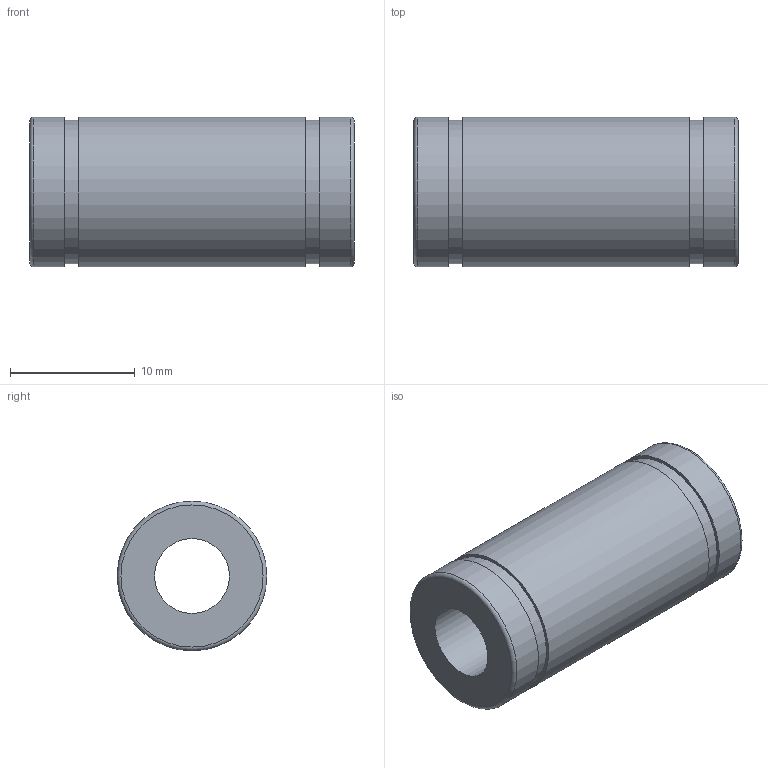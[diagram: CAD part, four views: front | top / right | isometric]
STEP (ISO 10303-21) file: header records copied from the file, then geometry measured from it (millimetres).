
FILE_DESCRIPTION(('STEP AP203'),'1');
FILE_NAME('//192.168.1.1/share/s-4 技術開発/s-4-13_CAD/03_見直し済み/001 修正済み/N-VM/N-VM_STEP/N-6VM.step','2020-04-08T00:07:53',(' '),(' '),'Spatial InterOp 3D',' ',' ');
FILE_SCHEMA(('CONFIG_CONTROL_DESIGN'));
Length unit declared in the file: millimetre
Products named in the file (1): 1
Bounding box: 26 x 12 x 12 mm (x, y, z)
Volume: 2182.7 mm3; surface area: 1663.4 mm2
Topology: 1 solids, 1 shells, 14 faces, 22 edges, 14 vertices
Faces by surface type: plane 6, cylinder 6, torus 2
Full cylindrical faces by diameter (mm): 6 x1, 11.5 x2, 12 x3
Entity records: 332 total; most frequent: DIRECTION 58, CARTESIAN_POINT 43, AXIS2_PLACEMENT_3D 29, EDGE_LOOP 28, ORIENTED_EDGE 28, FACE_OUTER_BOUND 22, ADVANCED_FACE 14, EDGE_CURVE 14
